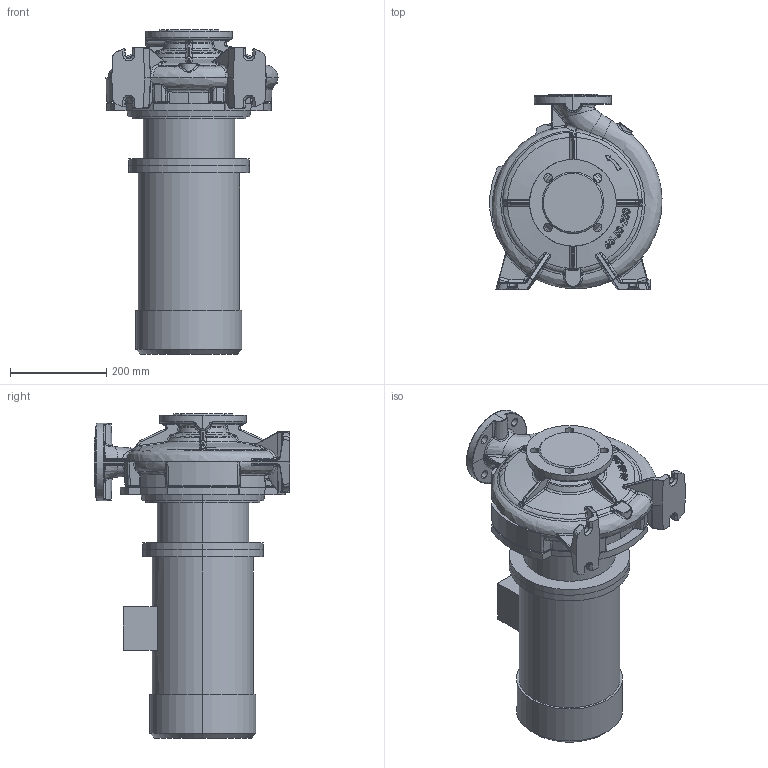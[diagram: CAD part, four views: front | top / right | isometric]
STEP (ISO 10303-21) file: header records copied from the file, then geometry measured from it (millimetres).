
FILE_DESCRIPTION (( 'STEP AP214' ), '1' );
FILE_NAME ('KRM 65-50-250-4-4.STEP', '2026-04-24T13:50:29', ( '' ), ( '' ), 'SwSTEP 2.0', 'SolidWorks 2016', '' );
FILE_SCHEMA (( 'AUTOMOTIVE_DESIGN' ));
Length unit declared in the file: millimetre
Products named in the file (1): KRM 65-50-250-4-4
Bounding box: 356.89 x 405 x 673 mm (x, y, z)
Volume: 31021091.1 mm3; surface area: 1306856.4 mm2
Topology: 4 solids, 4 shells, 1145 faces, 2766 edges, 1635 vertices
Faces by surface type: bspline 550, cylinder 216, plane 196, torus 83, cone 83, sphere 17
Entity records: 84845 total; most frequent: CARTESIAN_POINT 50200, ORIENTED_EDGE 5478, DIRECTION 3406, EDGE_CURVE 2739, VERTEX_POINT 1635, AXIS2_PLACEMENT_3D 1421, EDGE_LOOP 1194, UNCERTAINTY_MEASURE_WITH_UNIT 1151
